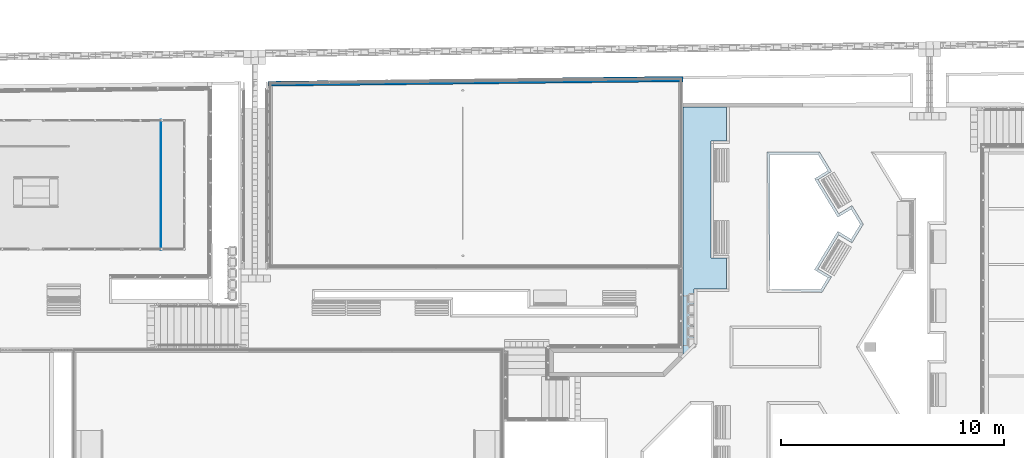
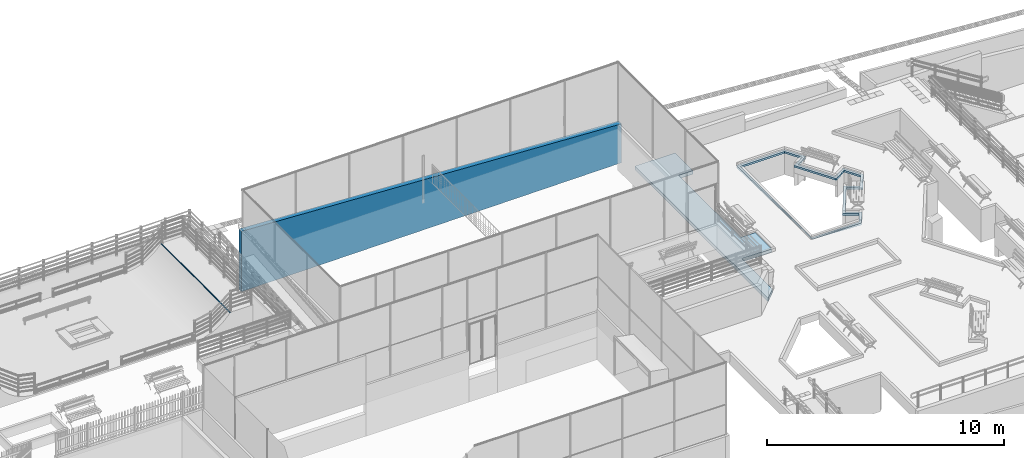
# One storey, part 26 of 237: 2 slabs, 2 walls.
"""IFC2X3 building model written with IfcOpenShell, lengths in millimetres."""

from ifc_helpers import new_model, entity, si_unit, converted_unit, derived_unit, money_unit, direction, frame, origin_with_axes, place, context, subcontext, project, spatial, polyline, outline, extrude, boolean, faceted_brep, material, layer, layer_set, layer_usage, type_object, element, save


model = new_model("IFC2X3")

# Units and contexts
model_context = context("Model", 3, precision=0.01, world=origin_with_axes(), true_north=direction((0.0, 1.0)))
body_context = subcontext(model_context, "Body", "Model", "MODEL_VIEW")
ifc_project = project(units=[si_unit("LENGTHUNIT", "METRE", prefix="MILLI"), si_unit("AREAUNIT", "SQUARE_METRE"), si_unit("VOLUMEUNIT", "CUBIC_METRE"), converted_unit("PLANEANGLEUNIT", "DEGREE", entity("IfcPlaneAngleMeasure", 0.0174532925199), si_unit("PLANEANGLEUNIT", "RADIAN"), dimensions=[0, 0, 0, 0, 0, 0, 0]), money_unit("USD"), converted_unit("TIMEUNIT", "Year", entity("IfcTimeMeasure", 31556926.0), si_unit("TIMEUNIT", "SECOND"), dimensions=[0, 0, 1, 0, 0, 0, 0]), si_unit("MASSUNIT", "GRAM", prefix="KILO"), si_unit("THERMODYNAMICTEMPERATUREUNIT", "DEGREE_CELSIUS"), si_unit("LUMINOUSINTENSITYUNIT", "LUMEN"), si_unit("ENERGYUNIT", "JOULE", prefix="MEGA"), derived_unit("THERMALCONDUCTANCEUNIT", [(si_unit("POWERUNIT", "WATT"), 1), (si_unit("LENGTHUNIT", "METRE"), -1), (si_unit("THERMODYNAMICTEMPERATUREUNIT", "KELVIN"), -1)]), derived_unit("SPECIFICHEATCAPACITYUNIT", [(si_unit("ENERGYUNIT", "JOULE"), 1), (si_unit("MASSUNIT", "GRAM", prefix="KILO"), -1), (si_unit("THERMODYNAMICTEMPERATUREUNIT", "KELVIN"), -1)]), derived_unit("MASSDENSITYUNIT", [(si_unit("MASSUNIT", "GRAM", prefix="KILO"), 1), (si_unit("VOLUMEUNIT", "CUBIC_METRE"), -1)])], contexts=[model_context])

# Site, building, storey
site_placement = place(None, origin_with_axes())
site = spatial("IfcSite", under=ifc_project, at=site_placement, Name="Local", CompositionType="ELEMENT")
building_placement = place(site_placement, origin_with_axes())
building = spatial("IfcBuilding", under=site, at=building_placement, Name="Construção", CompositionType="ELEMENT")
storey_placement = place(building_placement, origin_with_axes())
storey = spatial("IfcBuildingStorey", under=building, at=storey_placement, Name="Pavimento Térreo", CompositionType="ELEMENT", Elevation=0.0)

# Slabs
ifc_material_1 = material(Name="Concreto")
ifc_layer_1 = layer(ifc_material_1, 100.0, ventilated="UNKNOWN")
ifc_layer_set_1 = layer_set([ifc_layer_1], Name="Concreto 100")
ifc_layer_usage_1 = layer_usage(ifc_layer_set_1, "AXIS3", "NEGATIVE", 100.0)
slab_type_1 = type_object("IfcSlabType", Name="Concreto 100", PredefinedType="FLOOR")
slab_1_placement = place(storey_placement, frame((92886.7413377, 32451.4214332, -4994.60754302), z_axis=(0.0, 0.0, 1.0), x_axis=(1.0, 0.0, 0.0)))
element("IfcSlab", 1, at=slab_1_placement, inside=storey, type_object=slab_type_1, material=ifc_layer_usage_1, Name="Laje-036", PredefinedType="FLOOR", context=body_context, shape_type="CSG", body=[
    boolean("DIFFERENCE", extrude(outline(polyline([(0.0, 0.0), (-2349.97574917, 0.0), (-2229.99773227, -6175.9062681), (115.649390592, -6295.9062681), (535.210590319, -5603.62096701), (-63.4300571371, -5240.81333863), (856.646508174, -3722.6665642), (1455.28715563, -4085.47419259), (1965.64939059, -3243.365166), (1457.71871086, -2405.26825956), (859.0780634, -2768.07588795), (-63.330928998, -1246.080557), (535.309718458, -883.272928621), (0.0, 0.0)])), frame((0.0, 0.0, -100.0), z_axis=(0.0, 0.0, 1.0), x_axis=(1.0, 0.0, 0.0)), (0.0, 0.0, 1.0), 100.0), faceted_brep([(918.842101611, -3620.04245321, -100.0), (1414.85863808, -3920.65448816, -100.0), (1825.3314881, -3243.365166, -100.0), (1417.2901933, -2570.08796399, -100.0), (921.273656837, -2870.69999894, -100.0), (818.649545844, -2932.89559237, -100.0), (-228.150633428, -1205.65203945, -100.0), (-125.526522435, -1143.45644601, -100.0), (370.490014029, -842.844411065, -100.0), (-67.5916090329, -120.0, -100.0), (-2229.97617631, -120.0, -100.0), (-2229.99773227, -6175.9062681, -100.0), (-2349.97574917, 0.0, -100.0), (0.0, 0.0, -100.0), (535.309718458, -883.272928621, -100.0), (-63.330928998, -1246.080557, -100.0), (859.0780634, -2768.07588795, -100.0), (1457.71871086, -2405.26825956, -100.0), (1965.64939059, -3243.365166, -100.0), (1455.28715563, -4085.47419259, -100.0), (856.646508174, -3722.6665642, -100.0), (-63.4300571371, -5240.81333863, -100.0), (535.210590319, -5603.62096701, -100.0), (115.649390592, -6295.9062681, -100.0), (-2229.99773227, -6175.9062681, -100.0), (48.0577815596, -6175.9062681, -100.0), (370.39088589, -5644.04948457, -100.0), (-125.625650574, -5343.43744962, -100.0), (-228.249761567, -5281.24185619, -100.0), (816.217990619, -3557.84685977, -100.0), (918.842101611, -3620.04245321, 0.0), (1414.85863808, -3920.65448816, 0.0), (1825.3314881, -3243.365166, 0.0), (1417.2901933, -2570.08796399, 0.0), (921.273656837, -2870.69999894, 0.0), (818.649545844, -2932.89559237, 0.0), (-228.150633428, -1205.65203945, 0.0), (-125.526522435, -1143.45644601, 0.0), (370.490014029, -842.844411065, 0.0), (-67.5916090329, -120.0, 0.0), (-2229.97617631, -120.0, 0.0), (-2229.99773227, -6175.9062681, 0.0), (-2349.97574917, 0.0, 0.0), (0.0, 0.0, 0.0), (535.309718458, -883.272928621, 0.0), (-63.330928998, -1246.080557, 0.0), (859.0780634, -2768.07588795, 0.0), (1457.71871086, -2405.26825956, 0.0), (1965.64939059, -3243.365166, 0.0), (1455.28715563, -4085.47419259, 0.0), (856.646508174, -3722.6665642, 0.0), (-63.4300571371, -5240.81333863, 0.0), (535.210590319, -5603.62096701, 0.0), (115.649390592, -6295.9062681, 0.0), (-2229.99773227, -6175.9062681, 0.0), (48.0577815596, -6175.9062681, 0.0), (370.39088589, -5644.04948457, 0.0), (-125.625650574, -5343.43744962, 0.0), (-228.249761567, -5281.24185619, 0.0), (816.217990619, -3557.84685977, 0.0)], [[[0, 1, 2, 3, 4, 5, 6, 7, 8, 9, 10, 11, 12, 13, 14, 15, 16, 17, 18, 19, 20, 21, 22, 23, 24, 25, 26, 27, 28, 29]], [[30, 31, 1, 0]], [[31, 32, 2, 1]], [[32, 33, 3, 2]], [[33, 34, 4, 3]], [[34, 35, 5, 4]], [[35, 36, 6, 5]], [[36, 37, 7, 6]], [[37, 38, 8, 7]], [[38, 39, 9, 8]], [[39, 40, 10, 9]], [[40, 41, 11, 10]], [[42, 12, 11, 41]], [[43, 13, 12, 42]], [[44, 14, 13, 43]], [[45, 15, 14, 44]], [[46, 16, 15, 45]], [[47, 17, 16, 46]], [[48, 18, 17, 47]], [[49, 19, 18, 48]], [[50, 20, 19, 49]], [[51, 21, 20, 50]], [[52, 22, 21, 51]], [[53, 23, 22, 52]], [[54, 24, 23, 53]], [[54, 55, 25, 24]], [[55, 56, 26, 25]], [[56, 57, 27, 26]], [[57, 58, 28, 27]], [[58, 59, 29, 28]], [[59, 30, 0, 29]], [[34, 33, 32, 31, 30, 59, 58, 57, 56, 55, 54, 53, 52, 51, 50, 49, 48, 47, 46, 45, 44, 43, 42, 41, 40, 39, 38, 37, 36, 35]]])),
])
ifc_layer_2 = layer(ifc_material_1, 177.194889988, ventilated="UNKNOWN")
ifc_layer_set_2 = layer_set([ifc_layer_2], Name="Concreto 177.195")
ifc_layer_usage_2 = layer_usage(ifc_layer_set_2, "AXIS3", "NEGATIVE", 177.194889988)
slab_type_2 = type_object("IfcSlabType", Name="Concreto 177", PredefinedType="FLOOR")
slab_2_placement = place(storey_placement, frame((86762.8908804, 34454.3924586, -4917.41265304), z_axis=(0.0, 0.0, 1.0), x_axis=(1.0, 0.0, 0.0)))
element("IfcSlab", 2, at=slab_2_placement, inside=storey, type_object=slab_type_2, material=ifc_layer_usage_2, Name="Laje-036", PredefinedType="FLOOR", context=body_context, shape_type="CSG", body=[
    boolean("DIFFERENCE", boolean("DIFFERENCE", boolean("DIFFERENCE", boolean("DIFFERENCE", extrude(outline(polyline([(0.0, 0.0), (0.39882183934, -11227.3855772), (499.998260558, -10727.7861385), (500.01705672, -8142.08780621), (1953.65464272, -8142.10200774), (1953.90647357, -6757.08050545), (1253.63444644, -6757.1021857), (1253.63444644, -1506.53332414), (1956.62419105, -1506.53332414), (1957.53937301, -1.16826021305), (0.0, 0.0)])), frame((0.0, 0.0, -177.194889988), z_axis=(0.0, 0.0, 1.0), x_axis=(1.0, 0.0, 0.0)), (0.0, 0.0, 1.0), 177.194889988), faceted_brep([(0.109259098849, -10973.1166987, 0.0), (0.403068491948, -10972.8228893, 0.0), (0.486233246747, -10797.2697905, 0.0), (0.0, -10797.2695601, 0.0), (0.0, -10877.1748366, 0.0), (0.109259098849, -10973.1166987, -177.194889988), (0.403068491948, -10972.8228893, -177.194889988), (0.486233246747, -10797.2697905, -177.194889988), (0.0, -10797.2695601, -177.194889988), (0.0, -10877.1748366, -177.194889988)], [[[0, 1, 2, 3, 4]], [[1, 0, 5, 6]], [[2, 1, 6, 7]], [[3, 2, 7, 8]], [[3, 8, 9, 4]], [[5, 0, 4, 9]], [[6, 5, 9, 8, 7]]])), faceted_brep([(499.999288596, -10586.3637542, -177.194889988), (499.999288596, -10586.3637542, 0.0), (499.998260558, -10727.7861385, 0.0), (499.998260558, -10727.7861385, -177.194889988), (0.237953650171, -11086.1250892, 0.0), (0.237953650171, -11086.1250892, -177.194889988), (0.39882183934, -11227.3855772, 0.0), (0.39882183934, -11227.3855772, -177.194889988)], [[[0, 1, 2, 3]], [[4, 1, 0, 5]], [[1, 4, 6, 2]], [[6, 7, 3, 2]], [[5, 0, 3, 7]], [[4, 5, 7, 6]]])), faceted_brep([(1953.65464272, -8142.10200774, 0.0), (1953.65464272, -8142.10200774, -177.194889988), (1953.90646963, -6757.10218572, -177.194889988), (1953.90646963, -6757.10218572, 0.0), (1953.88639068, -6757.10218572, 0.0), (1953.88639068, -6757.10218571, -177.194889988)], [[[0, 1, 2, 3]], [[0, 4, 5, 1]], [[5, 2, 1]], [[4, 3, 2, 5]], [[4, 0, 3]]])), faceted_brep([(0.0367242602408, -2.19170530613e-05, 0.0), (0.0368311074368, -3.3121693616, 0.0), (1956.29072726, -3.24906219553, 0.0), (1955.41810213, -1506.53332414, 0.0), (1956.62419105, -1506.53332414, 0.0), (1957.53937301, -1.16826021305, 0.0), (0.0367242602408, -2.19170530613e-05, -177.194889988), (0.0368311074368, -3.3121693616, -177.194889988), (1956.29072726, -3.24906219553, -177.194889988), (1955.41810213, -1506.53332414, -177.194889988), (1956.62419105, -1506.53332414, -177.194889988), (1957.53937301, -1.16826021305, -177.194889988)], [[[0, 1, 2, 3, 4, 5]], [[1, 0, 6, 7]], [[2, 1, 7, 8]], [[3, 2, 8, 9]], [[3, 9, 10, 4]], [[4, 10, 11, 5]], [[6, 0, 5, 11]], [[7, 6, 11, 10, 9, 8]]])),
])

# Walls
ifc_material_2 = material(Name="Bloco de Concreto - Estrutural")
wall_type_1 = type_object("IfcWallType", Name="Bloco de Concreto - Estrutural", PredefinedType="NOTDEFINED")
wall_1_placement = place(storey_placement, frame((51082.6888532, 39330.3080963, -725.963038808), z_axis=(0.0, 0.0, 1.0), x_axis=(1.0, 0.0, 0.0)))
element("IfcWall", 3, at=wall_1_placement, inside=storey, type_object=wall_type_1, material=ifc_material_2, Name="Parede-087", context=body_context, shape_type="Brep", body=[
    faceted_brep([(17080.3995924, -3937.99589336, -4710.0), (17080.3995924, -3937.99589336, -1602.76204719), (17079.763858, -3718.62231368, -1608.62530491), (35680.2020272, -3737.50331085, -2708.09662463), (35680.2020272, -3737.50331085, -2706.44870794), (17079.763858, -3718.62231368, -4710.0), (35680.2020272, -3737.50331085, -4710.0), (35680.2020272, -3491.37715994, -2706.44870794), (35680.2020272, -3491.37715994, -4710.0), (35680.2020272, -3491.37715994, -2708.09662463)], [[[0, 1, 2]], [[1, 0, 3]], [[2, 1, 4]], [[5, 0, 2]], [[0, 6, 3]], [[1, 3, 4]], [[2, 4, 7]], [[0, 5, 8, 6]], [[5, 2, 9]], [[6, 9, 3]], [[3, 9, 4]], [[9, 7, 4]], [[9, 2, 7]], [[8, 5, 9]], [[6, 8, 9]]]),
])
ifc_material_3 = material(Name="Ferro")
wall_type_2 = type_object("IfcWallType", Name="Ferro", PredefinedType="NOTDEFINED")
wall_2_placement = place(storey_placement, frame((-67901.6713559, -13536.6497779, -187209.451145), z_axis=(-0.818899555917, 0.0, 0.573936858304), x_axis=(0.573936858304, 0.0, 0.818899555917)))
element("IfcWall", 4, at=wall_2_placement, inside=storey, type_object=wall_type_2, material=ifc_material_3, Name="Parede-083", context=body_context, shape_type="Brep", body=[
    faceted_brep([(228350.614691, 41581.5860318, -250.679170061), (228330.467039, 47431.5902691, -250.468498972), (228350.614691, 47431.5860318, -250.679170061), (228330.614691, 41581.5860318, -250.679170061), (228330.937036, 47431.5902691, -250.139095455), (228362.093428, 41581.5860318, -267.05716118), (228361.945777, 47431.3823858, -266.846491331), (228330.614691, 41581.5860318, -249.679170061), (228362.912328, 41581.5860318, -266.483224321), (228351.134978, 41581.5860318, -249.679170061), (228351.433591, 47431.5860318, -250.105233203), (228362.764677, 47431.3823858, -266.272554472)], [[[0, 1, 2]], [[3, 1, 0]], [[1, 4, 2]], [[5, 0, 2, 6]], [[1, 3, 4]], [[7, 3, 0, 5, 8, 9]], [[2, 4, 10]], [[6, 2, 11]], [[5, 6, 8]], [[3, 7, 4]], [[10, 9, 8, 11]], [[4, 7, 9]], [[4, 9, 10]], [[2, 10, 11]], [[11, 8, 6]]]),
])

save(model, "model.ifc")
